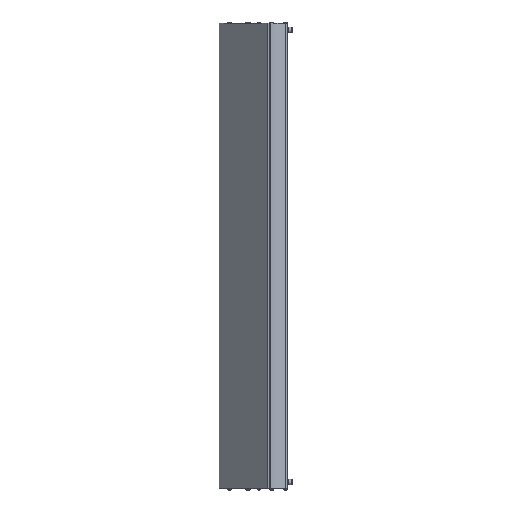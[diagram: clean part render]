
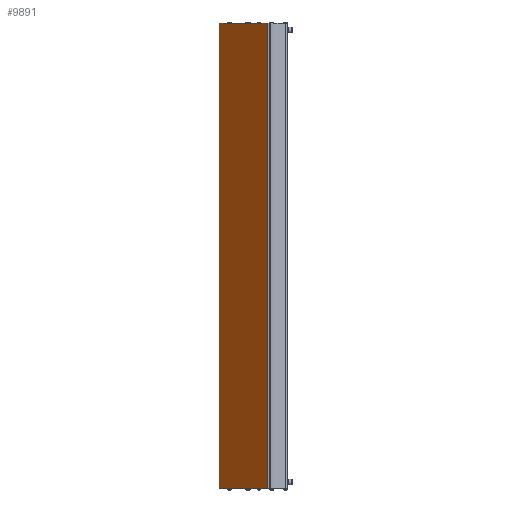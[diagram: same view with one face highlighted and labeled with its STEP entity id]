
A CAD part, left-side view. The second image highlights one B-rep face of the part: STEP entity #9891.
In plain terms, the highlighted planar face has unit normal (-0.706, 0.708, 0).
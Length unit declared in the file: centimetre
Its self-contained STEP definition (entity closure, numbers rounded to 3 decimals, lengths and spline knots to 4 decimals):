
#256=PLANE('',#10698);
#684=LINE('',#16818,#1250);
#689=LINE('',#16866,#1255);
#690=LINE('',#16869,#1256);
#691=LINE('',#16870,#1257);
#1250=VECTOR('',#12816,14.5982);
#1255=VECTOR('',#12829,100.);
#1256=VECTOR('',#12832,100.);
#1257=VECTOR('',#12833,14.5982);
#1977=FACE_OUTER_BOUND('',#2576,.T.);
#2576=EDGE_LOOP('',(#7567,#7568,#7569,#7570));
#4451=VERTEX_POINT('',#16815);
#4452=VERTEX_POINT('',#16817);
#4459=VERTEX_POINT('',#16862);
#4461=VERTEX_POINT('',#16868);
#5636=EDGE_CURVE('',#4452,#4451,#684,.T.);
#5646=EDGE_CURVE('',#4452,#4459,#689,.T.);
#5647=EDGE_CURVE('',#4461,#4451,#690,.T.);
#5648=EDGE_CURVE('',#4459,#4461,#691,.T.);
#7567=ORIENTED_EDGE('',*,*,#5646,.F.);
#7568=ORIENTED_EDGE('',*,*,#5636,.T.);
#7569=ORIENTED_EDGE('',*,*,#5647,.F.);
#7570=ORIENTED_EDGE('',*,*,#5648,.F.);
#9891=ADVANCED_FACE('',(#1977),#256,.T.);
#10698=AXIS2_PLACEMENT_3D('',#16867,#12830,#12831);
#12816=DIRECTION('',(-0.708,-0.706,0.));
#12829=DIRECTION('',(0.,0.,1.));
#12830=DIRECTION('center_axis',(-0.706,0.708,0.));
#12831=DIRECTION('ref_axis',(-0.708,-0.706,0.));
#12832=DIRECTION('',(0.,0.,-1.));
#12833=DIRECTION('',(-0.708,-0.706,0.));
#16815=CARTESIAN_POINT('',(-13.859,4.3418,-49.991));
#16817=CARTESIAN_POINT('',(-3.5224,14.65,-49.991));
#16818=CARTESIAN_POINT('',(-3.4516,14.7206,-49.991));
#16862=CARTESIAN_POINT('',(-3.5224,14.65,50.009));
#16866=CARTESIAN_POINT('',(-3.5224,14.65,-49.991));
#16867=CARTESIAN_POINT('Origin',(-3.4516,14.7206,-49.991));
#16868=CARTESIAN_POINT('',(-13.859,4.3418,50.009));
#16869=CARTESIAN_POINT('',(-13.859,4.3418,-49.991));
#16870=CARTESIAN_POINT('',(-3.4516,14.7206,50.009));
